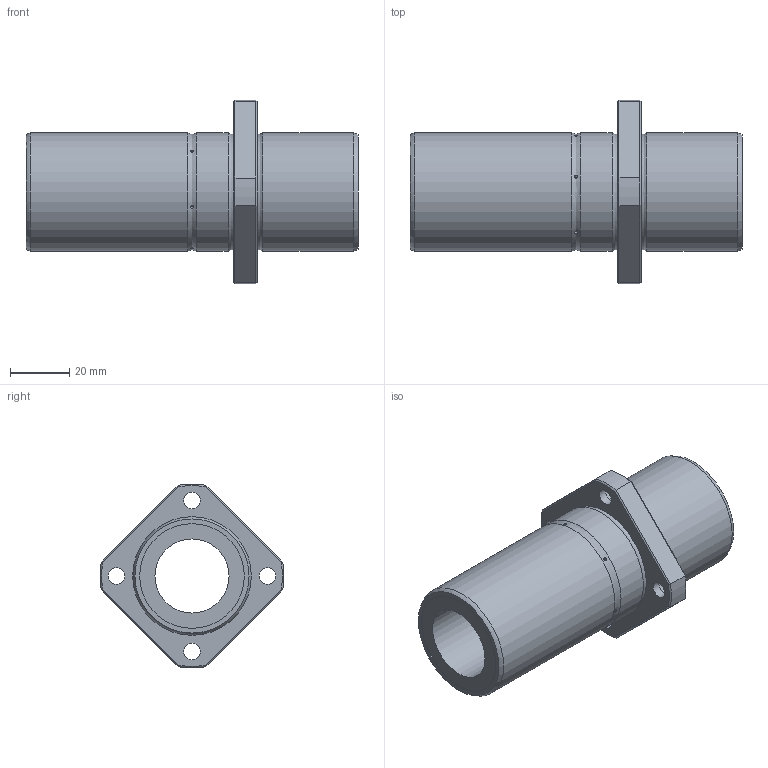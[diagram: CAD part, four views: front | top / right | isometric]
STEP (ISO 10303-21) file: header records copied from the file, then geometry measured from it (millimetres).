
FILE_DESCRIPTION((''),'2;1');
FILE_NAME('D:\製品 (図面)\カタログ用3D\リニアベアリング関連\STEP形式\LFDK-OH\LFDK25-OH.stp','2010-06-03T09:41:49',('Tsuchiya'),(''),'Autodesk Inventor 10','Autodesk Inventor 10','');
FILE_SCHEMA(('AUTOMOTIVE_DESIGN { 1 0 10303 214 1 1 1 1 }'));
Length unit declared in the file: millimetre
Products named in the file (1): LFDK25-OH
Bounding box: 112 x 61.92 x 61.92 mm (x, y, z)
Volume: 92898.9 mm3; surface area: 27736.7 mm2
Topology: 1 solids, 1 shells, 65 faces, 131 edges, 82 vertices
Faces by surface type: bspline 21, plane 18, cylinder 16, cone 8, torus 2
Full cylindrical faces by diameter (mm): 25 x1, 35.3 x2, 40 x3
Entity records: 2393 total; most frequent: CARTESIAN_POINT 1222, DIRECTION 210, ORIENTED_EDGE 200, EDGE_LOOP 114, EDGE_CURVE 100, AXIS2_PLACEMENT_3D 93, VERTEX_POINT 76, FACE_OUTER_BOUND 65
